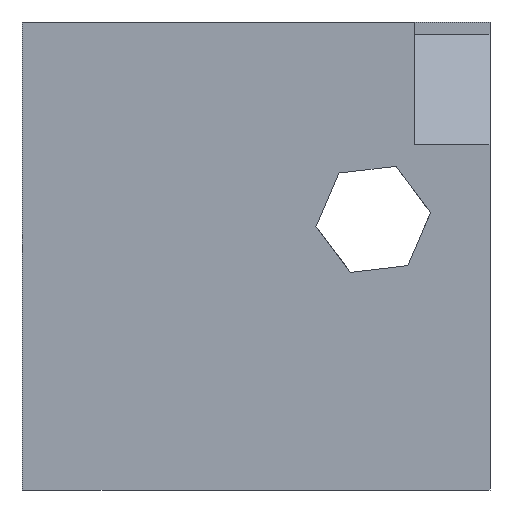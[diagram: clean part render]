
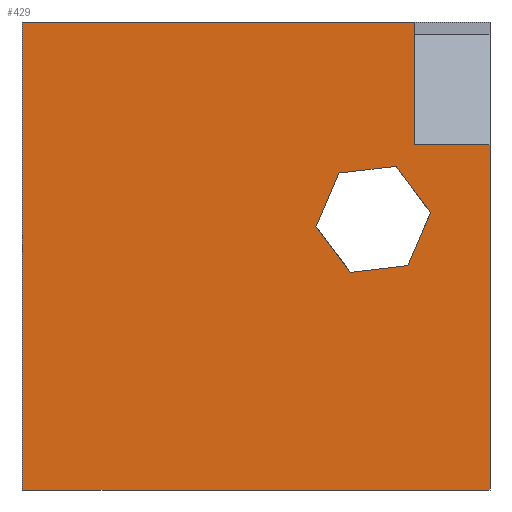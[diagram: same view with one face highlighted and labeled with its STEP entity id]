
A CAD part, front view. The second image highlights one B-rep face of the part: STEP entity #429.
In plain terms, the highlighted planar face has unit normal (0, -1, 0).
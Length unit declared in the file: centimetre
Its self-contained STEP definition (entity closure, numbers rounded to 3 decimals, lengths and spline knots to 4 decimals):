
#21 = DIRECTION ( 'NONE',  ( 0., 0., -1. ) ) ;
#46 = VERTEX_POINT ( 'NONE', #583 ) ;
#71 = EDGE_LOOP ( 'NONE', ( #516, #1248, #691, #1199, #513, #929 ) ) ;
#85 = VERTEX_POINT ( 'NONE', #166 ) ;
#126 = VECTOR ( 'NONE', #243, 100. ) ;
#147 = CARTESIAN_POINT ( 'NONE',  ( 839.4445, 0., 737.2143 ) ) ;
#166 = CARTESIAN_POINT ( 'NONE',  ( 628.1824, 0., 563.8905 ) ) ;
#171 = CARTESIAN_POINT ( 'NONE',  ( 0., 0., 1000. ) ) ;
#179 = VERTEX_POINT ( 'NONE', #317 ) ;
#189 = DIRECTION ( 'NONE',  ( 1., 0., 0. ) ) ;
#214 = DIRECTION ( 'NONE',  ( 1., 0., 0. ) ) ;
#233 = EDGE_CURVE ( 'NONE', #179, #46, #1181, .T. ) ;
#236 = CARTESIAN_POINT ( 'NONE',  ( 824.3954, 0., 479.4108 ) ) ;
#243 = DIRECTION ( 'NONE',  ( 0.395, 0., 0.918 ) ) ;
#267 = CARTESIAN_POINT ( 'NONE',  ( 701.9017, 0., 465.0088 ) ) ;
#281 = EDGE_CURVE ( 'NONE', #891, #1106, #572, .T. ) ;
#288 = CARTESIAN_POINT ( 'NONE',  ( 0., 0., 0. ) ) ;
#295 = EDGE_CURVE ( 'NONE', #697, #742, #1076, .T. ) ;
#308 = LINE ( 'NONE', #744, #1110 ) ;
#317 = CARTESIAN_POINT ( 'NONE',  ( 839.4445, 0., 1000. ) ) ;
#331 = EDGE_CURVE ( 'NONE', #46, #697, #555, .T. ) ;
#339 = DIRECTION ( 'NONE',  ( 1., 0., 0. ) ) ;
#349 = DIRECTION ( 'NONE',  ( 0., 0., -1. ) ) ;
#396 = ORIENTED_EDGE ( 'NONE', *, *, #473, .F. ) ;
#398 = LINE ( 'NONE', #288, #672 ) ;
#417 = DIRECTION ( 'NONE',  ( -0.395, 0., -0.918 ) ) ;
#429 = ADVANCED_FACE ( 'NONE', ( #609, #1116 ), #588, .F. ) ;
#435 = ORIENTED_EDGE ( 'NONE', *, *, #295, .F. ) ;
#441 = CARTESIAN_POINT ( 'NONE',  ( 839.4445, 0., 737.2143 ) ) ;
#448 = CARTESIAN_POINT ( 'NONE',  ( 701.9017, 0., 465.0088 ) ) ;
#455 = VERTEX_POINT ( 'NONE', #580 ) ;
#457 = EDGE_CURVE ( 'NONE', #1149, #841, #902, .T. ) ;
#466 = DIRECTION ( 'NONE',  ( 0., 1., 0. ) ) ;
#468 = CARTESIAN_POINT ( 'NONE',  ( 0., 0., 1000. ) ) ;
#469 = ORIENTED_EDGE ( 'NONE', *, *, #457, .T. ) ;
#473 = EDGE_CURVE ( 'NONE', #1149, #179, #1341, .T. ) ;
#478 = LINE ( 'NONE', #1122, #1288 ) ;
#483 = EDGE_CURVE ( 'NONE', #1191, #85, #478, .T. ) ;
#507 = VECTOR ( 'NONE', #1357, 100. ) ;
#510 = EDGE_CURVE ( 'NONE', #841, #742, #398, .T. ) ;
#513 = ORIENTED_EDGE ( 'NONE', *, *, #483, .F. ) ;
#516 = ORIENTED_EDGE ( 'NONE', *, *, #565, .F. ) ;
#555 = LINE ( 'NONE', #441, #853 ) ;
#556 = EDGE_CURVE ( 'NONE', #85, #891, #308, .T. ) ;
#558 = CARTESIAN_POINT ( 'NONE',  ( 799.4505, 0., 691.576 ) ) ;
#565 = EDGE_CURVE ( 'NONE', #784, #455, #1165, .T. ) ;
#572 = LINE ( 'NONE', #448, #759 ) ;
#580 = CARTESIAN_POINT ( 'NONE',  ( 799.4505, 0., 691.576 ) ) ;
#583 = CARTESIAN_POINT ( 'NONE',  ( 839.4445, 0., 737.2143 ) ) ;
#587 = CARTESIAN_POINT ( 'NONE',  ( 0., 0., 0. ) ) ;
#588 = PLANE ( 'NONE',  #1158 ) ;
#606 = VECTOR ( 'NONE', #189, 100. ) ;
#609 = FACE_BOUND ( 'NONE', #71, .T. ) ;
#672 = VECTOR ( 'NONE', #214, 100. ) ;
#691 = ORIENTED_EDGE ( 'NONE', *, *, #281, .F. ) ;
#697 = VERTEX_POINT ( 'NONE', #875 ) ;
#712 = CARTESIAN_POINT ( 'NONE',  ( 0., 0., 1000. ) ) ;
#742 = VERTEX_POINT ( 'NONE', #1301 ) ;
#744 = CARTESIAN_POINT ( 'NONE',  ( 628.1824, 0., 563.8905 ) ) ;
#759 = VECTOR ( 'NONE', #764, 100. ) ;
#764 = DIRECTION ( 'NONE',  ( 0.993, 0., 0.117 ) ) ;
#768 = CARTESIAN_POINT ( 'NONE',  ( 676.9568, 0., 677.1741 ) ) ;
#784 = VERTEX_POINT ( 'NONE', #1231 ) ;
#803 = VECTOR ( 'NONE', #349, 100. ) ;
#841 = VERTEX_POINT ( 'NONE', #587 ) ;
#853 = VECTOR ( 'NONE', #339, 100. ) ;
#875 = CARTESIAN_POINT ( 'NONE',  ( 1000., 0., 737.2143 ) ) ;
#880 = CARTESIAN_POINT ( 'NONE',  ( 1000., 0., 1000. ) ) ;
#890 = VECTOR ( 'NONE', #21, 100. ) ;
#891 = VERTEX_POINT ( 'NONE', #267 ) ;
#902 = LINE ( 'NONE', #1327, #1269 ) ;
#929 = ORIENTED_EDGE ( 'NONE', *, *, #1074, .F. ) ;
#948 = CARTESIAN_POINT ( 'NONE',  ( 873.1698, 0., 592.6944 ) ) ;
#1002 = VECTOR ( 'NONE', #1204, 100. ) ;
#1014 = DIRECTION ( 'NONE',  ( 0., 0., 1. ) ) ;
#1052 = ORIENTED_EDGE ( 'NONE', *, *, #233, .F. ) ;
#1074 = EDGE_CURVE ( 'NONE', #455, #1191, #1169, .T. ) ;
#1076 = LINE ( 'NONE', #880, #803 ) ;
#1106 = VERTEX_POINT ( 'NONE', #1213 ) ;
#1110 = VECTOR ( 'NONE', #1145, 100. ) ;
#1116 = FACE_OUTER_BOUND ( 'NONE', #1276, .T. ) ;
#1122 = CARTESIAN_POINT ( 'NONE',  ( 676.9568, 0., 677.1741 ) ) ;
#1145 = DIRECTION ( 'NONE',  ( 0.598, 0., -0.802 ) ) ;
#1149 = VERTEX_POINT ( 'NONE', #468 ) ;
#1158 = AXIS2_PLACEMENT_3D ( 'NONE', #712, #466, #1014 ) ;
#1165 = LINE ( 'NONE', #948, #507 ) ;
#1169 = LINE ( 'NONE', #558, #1002 ) ;
#1181 = LINE ( 'NONE', #147, #890 ) ;
#1191 = VERTEX_POINT ( 'NONE', #768 ) ;
#1192 = EDGE_CURVE ( 'NONE', #1106, #784, #1197, .T. ) ;
#1197 = LINE ( 'NONE', #236, #126 ) ;
#1199 = ORIENTED_EDGE ( 'NONE', *, *, #556, .F. ) ;
#1204 = DIRECTION ( 'NONE',  ( -0.993, 0., -0.117 ) ) ;
#1213 = CARTESIAN_POINT ( 'NONE',  ( 824.3954, 0., 479.4108 ) ) ;
#1231 = CARTESIAN_POINT ( 'NONE',  ( 873.1698, 0., 592.6944 ) ) ;
#1240 = ORIENTED_EDGE ( 'NONE', *, *, #331, .F. ) ;
#1248 = ORIENTED_EDGE ( 'NONE', *, *, #1192, .F. ) ;
#1269 = VECTOR ( 'NONE', #1317, 100. ) ;
#1271 = ORIENTED_EDGE ( 'NONE', *, *, #510, .T. ) ;
#1276 = EDGE_LOOP ( 'NONE', ( #435, #1240, #1052, #396, #469, #1271 ) ) ;
#1288 = VECTOR ( 'NONE', #417, 100. ) ;
#1301 = CARTESIAN_POINT ( 'NONE',  ( 1000., 0., 0. ) ) ;
#1317 = DIRECTION ( 'NONE',  ( 0., 0., -1. ) ) ;
#1327 = CARTESIAN_POINT ( 'NONE',  ( 0., 0., 1000. ) ) ;
#1341 = LINE ( 'NONE', #171, #606 ) ;
#1357 = DIRECTION ( 'NONE',  ( -0.598, 0., 0.802 ) ) ;
